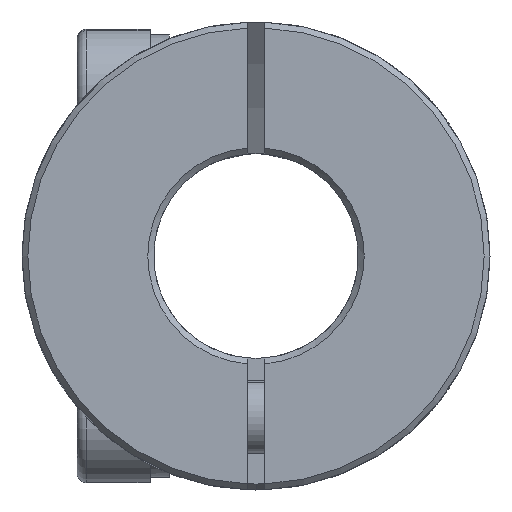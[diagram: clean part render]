
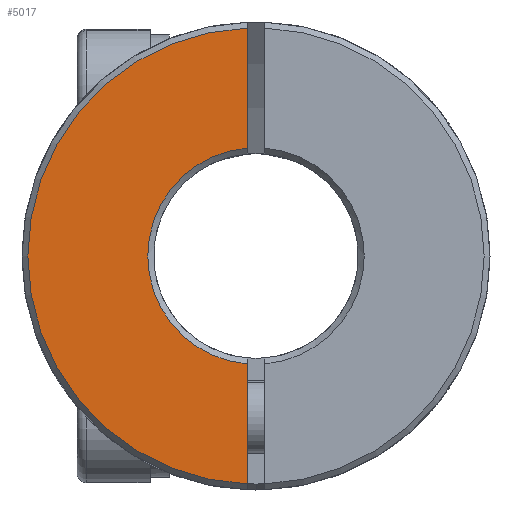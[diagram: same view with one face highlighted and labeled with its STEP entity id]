
A CAD part, front view. The second image highlights one B-rep face of the part: STEP entity #5017.
In plain terms, the highlighted planar face has unit normal (0, -1, 0).
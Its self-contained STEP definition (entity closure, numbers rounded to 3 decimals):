
#492 = VERTEX_POINT ( 'NONE', #675 ) ;
#675 = CARTESIAN_POINT ( 'NONE',  ( -0.3, -15.02, -3.688 ) ) ;
#691 = EDGE_CURVE ( 'NONE', #3521, #5412, #6948, .T. ) ;
#1094 = VECTOR ( 'NONE', #5665, 1000. ) ;
#1106 = EDGE_LOOP ( 'NONE', ( #2451, #4236, #3944, #4920 ) ) ;
#1185 = LINE ( 'NONE', #5329, #7304 ) ;
#1213 = DIRECTION ( 'NONE',  ( 0., 0., 1. ) ) ;
#1343 = CARTESIAN_POINT ( 'NONE',  ( -0.3, -15.02, 3.688 ) ) ;
#1483 = CARTESIAN_POINT ( 'NONE',  ( 0., -15.02, 0. ) ) ;
#2009 = FACE_OUTER_BOUND ( 'NONE', #1106, .T. ) ;
#2029 = EDGE_CURVE ( 'NONE', #492, #6065, #3246, .T. ) ;
#2147 = AXIS2_PLACEMENT_3D ( 'NONE', #5747, #2193, #3399 ) ;
#2193 = DIRECTION ( 'NONE',  ( 0., 1., 0. ) ) ;
#2376 = EDGE_CURVE ( 'NONE', #492, #5412, #2878, .T. ) ;
#2451 = ORIENTED_EDGE ( 'NONE', *, *, #2702, .F. ) ;
#2702 = EDGE_CURVE ( 'NONE', #3521, #6065, #1185, .T. ) ;
#2878 = LINE ( 'NONE', #4500, #1094 ) ;
#2991 = DIRECTION ( 'NONE',  ( 0., 0., -1. ) ) ;
#3246 = CIRCLE ( 'NONE', #2147, 3.7 ) ;
#3290 = DIRECTION ( 'NONE',  ( 0., -1., 0. ) ) ;
#3399 = DIRECTION ( 'NONE',  ( 0., 0., 1. ) ) ;
#3492 = CARTESIAN_POINT ( 'NONE',  ( 0., -15.02, 0. ) ) ;
#3521 = VERTEX_POINT ( 'NONE', #6552 ) ;
#3944 = ORIENTED_EDGE ( 'NONE', *, *, #2376, .F. ) ;
#4142 = DIRECTION ( 'NONE',  ( 0., 1., 0. ) ) ;
#4236 = ORIENTED_EDGE ( 'NONE', *, *, #691, .T. ) ;
#4500 = CARTESIAN_POINT ( 'NONE',  ( -0.3, -15.02, 0. ) ) ;
#4920 = ORIENTED_EDGE ( 'NONE', *, *, #2029, .T. ) ;
#5017 = ADVANCED_FACE ( 'NONE', ( #2009 ), #5934, .F. ) ;
#5062 = CARTESIAN_POINT ( 'NONE',  ( -0.3, -15.02, -7.794 ) ) ;
#5329 = CARTESIAN_POINT ( 'NONE',  ( -0.3, -15.02, 0. ) ) ;
#5377 = AXIS2_PLACEMENT_3D ( 'NONE', #3492, #4142, #1213 ) ;
#5412 = VERTEX_POINT ( 'NONE', #5062 ) ;
#5665 = DIRECTION ( 'NONE',  ( 0., 0., -1. ) ) ;
#5747 = CARTESIAN_POINT ( 'NONE',  ( 0., -15.02, 0. ) ) ;
#5934 = PLANE ( 'NONE',  #5377 ) ;
#6065 = VERTEX_POINT ( 'NONE', #1343 ) ;
#6552 = CARTESIAN_POINT ( 'NONE',  ( -0.3, -15.02, 7.794 ) ) ;
#6948 = CIRCLE ( 'NONE', #7133, 7.8 ) ;
#7133 = AXIS2_PLACEMENT_3D ( 'NONE', #1483, #3290, #7411 ) ;
#7304 = VECTOR ( 'NONE', #2991, 1000. ) ;
#7411 = DIRECTION ( 'NONE',  ( 0., 0., 1. ) ) ;
